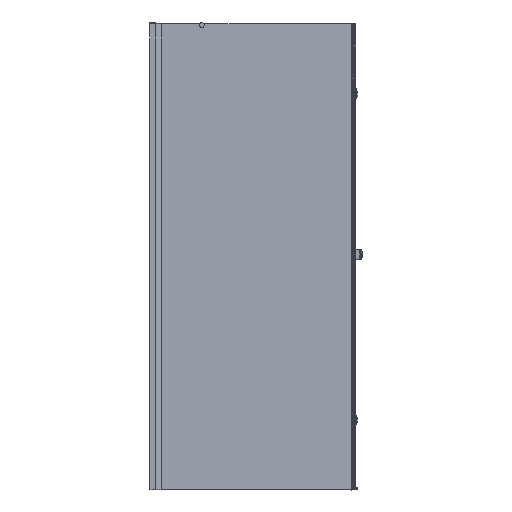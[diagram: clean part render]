
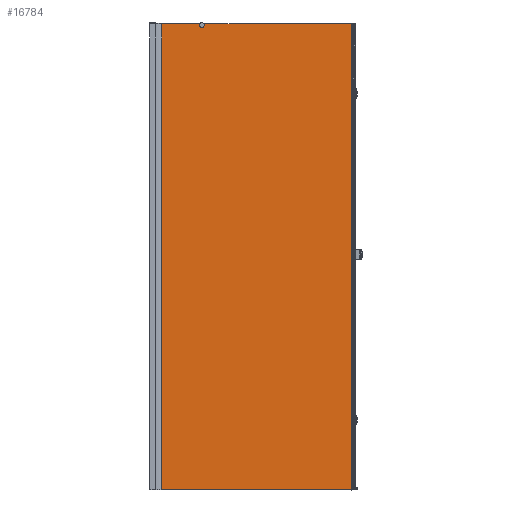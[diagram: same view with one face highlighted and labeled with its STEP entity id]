
A CAD part, front view. The second image highlights one B-rep face of the part: STEP entity #16784.
In plain terms, the highlighted planar face has unit normal (0, -1, 0).
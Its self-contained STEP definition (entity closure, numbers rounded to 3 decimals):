
#474=CIRCLE($,#17902,10.);
#546=CIRCLE($,#18042,2.);
#1381=FACE_OUTER_BOUND($,#2327,.T.);
#2327=EDGE_LOOP($,(#12484,#12485,#12486,#12487,#12488,#12489,#12490));
#3659=LINE($,#26816,#5337);
#3730=LINE($,#27075,#5408);
#3811=LINE($,#27329,#5489);
#3812=LINE($,#27331,#5490);
#3813=LINE($,#27332,#5491);
#5337=VECTOR($,#20677,633.423);
#5408=VECTOR($,#20856,1998.591);
#5489=VECTOR($,#21085,164.716);
#5490=VECTOR($,#21086,2000.);
#5491=VECTOR($,#21087,815.419);
#7005=VERTEX_POINT($,#26768);
#7006=VERTEX_POINT($,#26769);
#7018=VERTEX_POINT($,#26815);
#7100=VERTEX_POINT($,#27072);
#7181=VERTEX_POINT($,#27313);
#7183=VERTEX_POINT($,#27328);
#7184=VERTEX_POINT($,#27330);
#8817=EDGE_CURVE($,#7005,#7006,#474,.T.);
#8839=EDGE_CURVE($,#7018,#7005,#3659,.T.);
#8947=EDGE_CURVE($,#7100,#7018,#3730,.T.);
#9060=EDGE_CURVE($,#7181,#7100,#546,.T.);
#9068=EDGE_CURVE($,#7006,#7183,#3811,.T.);
#9069=EDGE_CURVE($,#7183,#7184,#3812,.T.);
#9070=EDGE_CURVE($,#7181,#7184,#3813,.T.);
#12484=ORIENTED_EDGE($,*,*,#8817,.T.);
#12485=ORIENTED_EDGE($,*,*,#9068,.T.);
#12486=ORIENTED_EDGE($,*,*,#9069,.T.);
#12487=ORIENTED_EDGE($,*,*,#9070,.F.);
#12488=ORIENTED_EDGE($,*,*,#9060,.T.);
#12489=ORIENTED_EDGE($,*,*,#8947,.T.);
#12490=ORIENTED_EDGE($,*,*,#8839,.T.);
#15130=PLANE($,#18047);
#16784=ADVANCED_FACE($,(#1381),#15130,.T.);
#17902=AXIS2_PLACEMENT_3D($,#26770,#20625,#20626);
#18042=AXIS2_PLACEMENT_3D($,#27314,#21066,#21067);
#18047=AXIS2_PLACEMENT_3D($,#27327,#21083,#21084);
#20625=DIRECTION('center_axis',(0.,1.,0.));
#20626=DIRECTION('ref_axis',(-1.,0.,0.));
#20677=DIRECTION($,(-1.,0.,0.));
#20856=DIRECTION($,(0.,0.,1.));
#21066=DIRECTION('center_axis',(0.,1.,0.));
#21067=DIRECTION('ref_axis',(-0.707,0.,
0.707));
#21083=DIRECTION('center_axis',(0.,-1.,0.));
#21084=DIRECTION('ref_axis',(-1.,0.,0.));
#21085=DIRECTION($,(-1.,0.,0.));
#21086=DIRECTION($,(0.,0.,-1.));
#21087=DIRECTION($,(-1.,0.,0.));
#26768=CARTESIAN_POINT('',(598.596,-34.044,1485.944));
#26769=CARTESIAN_POINT('',(580.735,-34.044,1485.944));
#26770=CARTESIAN_POINT('Origin',(589.666,-34.044,1481.444));
#26815=CARTESIAN_POINT('',(1232.019,-34.044,1485.944));
#26816=CARTESIAN_POINT($,(1237.019,-34.044,1485.944));
#27072=CARTESIAN_POINT('',(1232.019,-34.044,-512.646));
#27075=CARTESIAN_POINT($,(1232.019,-34.044,485.944));
#27313=CARTESIAN_POINT('',(1231.438,-34.044,-514.056));
#27314=CARTESIAN_POINT('Origin',(1233.438,-34.044,-514.056));
#27327=CARTESIAN_POINT('Origin',(1237.019,-34.044,1485.944));
#27328=CARTESIAN_POINT('',(416.019,-34.044,1485.944));
#27329=CARTESIAN_POINT($,(1237.019,-34.044,1485.944));
#27330=CARTESIAN_POINT('',(416.019,-34.044,-514.056));
#27331=CARTESIAN_POINT($,(416.019,-34.044,485.944));
#27332=CARTESIAN_POINT($,(1237.019,-34.044,-514.056));
